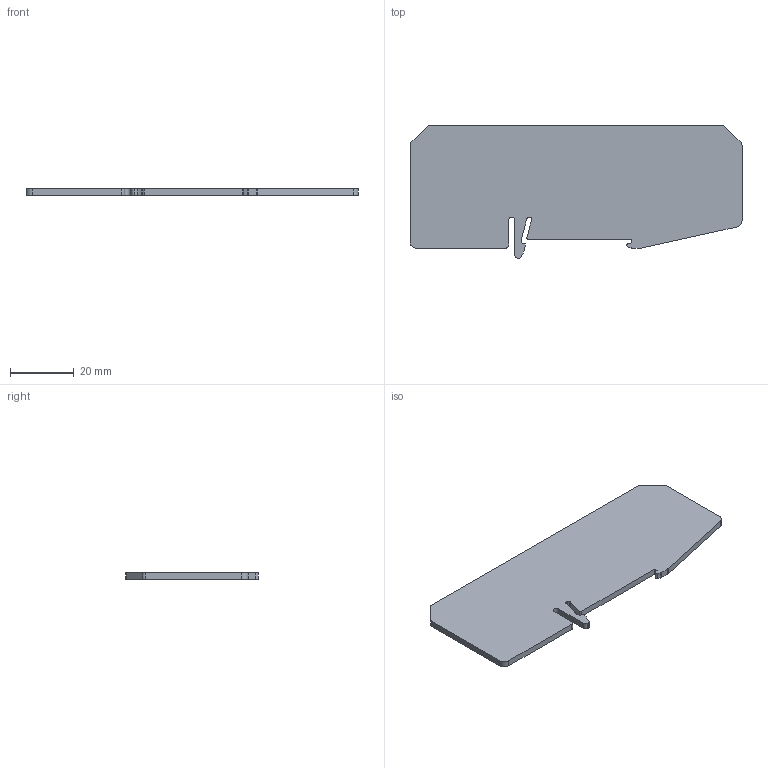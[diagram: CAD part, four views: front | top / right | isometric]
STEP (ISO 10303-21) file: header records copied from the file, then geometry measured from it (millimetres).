
FILE_DESCRIPTION(('OneSpaceDesigner STEP Export'),'2;1');
FILE_NAME('3206225_atp_qtc_quattro_select.stp','2004-09-30T13:42:25',(''),(''),'OneSpace Designer STEP processor (Jan. 2003) for AP203(Solid Model)','OneSpace Designer 12.01C 26-Mar-2004 (C) CoCreate Software GmbH','');
FILE_SCHEMA(('CONFIG_CONTROL_DESIGN'));
Length unit declared in the file: millimetre
Products named in the file (1): 3206225_atp_qtc_quattro_select
Bounding box: 104.4 x 41.75 x 2 mm (x, y, z)
Volume: 7525.1 mm3; surface area: 8160.1 mm2
Topology: 1 solids, 1 shells, 43 faces, 123 edges, 82 vertices
Faces by surface type: plane 23, cylinder 20
Entity records: 1469 total; most frequent: ORIENTED_EDGE 246, CARTESIAN_POINT 240, DIRECTION 233, EDGE_CURVE 123, VECTOR 83, LINE 83, VERTEX_POINT 82, AXIS2_PLACEMENT_3D 75
